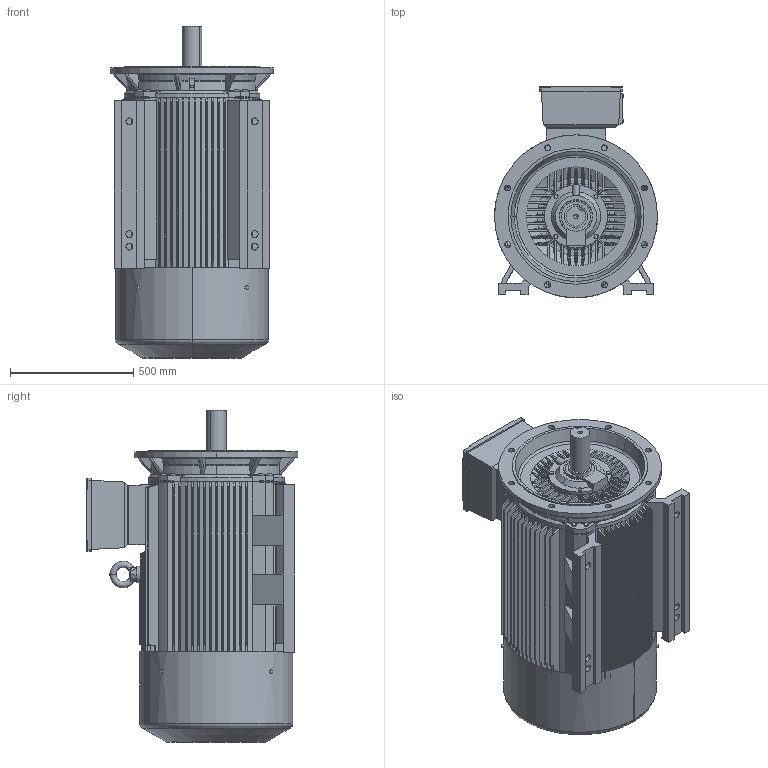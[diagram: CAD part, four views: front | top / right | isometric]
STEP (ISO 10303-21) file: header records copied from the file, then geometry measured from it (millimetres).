
FILE_DESCRIPTION (( 'STEP AP203' ), '1' );
FILE_NAME ('TE3-315ML-4,6,8 B35上.STEP', '2019-12-31T00:01:35', ( '微软用户' ), ( '微软中国' ), 'SwSTEP 2.0', 'SolidWorks 2012', '' );
FILE_SCHEMA (( 'CONFIG_CONTROL_DESIGN' ));
Length unit declared in the file: millimetre
Products named in the file (14): TE3-315ML-4,6,8 B35奻; YE3-315-4,6,8粣扥; Y2-315-4,6,8,10轴承外盖（轴伸）; hex head bolts-full thread grade c gb_GB_FASTENER_BOLT_HHBFTC M12X30-N; Y2-135 P24諉盄碟; hex head bolts-full thread grade c gb_GB_FASTENER_BOLT_HHBFTC M6X20-N; hex head bolts-full thread grade c gb_GB_FASTENER_BOLT_HHBFTC M10X20-N; 諉盄碟裔 WY315; 諉盄碟釱Y2-315; 蚐戚; eyebolts gb_GB_FASTENER_SCREWS_FRS M30-N; 8SLJ.306.00027（风罩YE3-315-4.6.8）; Y2-315-4,6,8凸缘端盖（带放油孔）; 8LY2.315.034.002(儂釱Y2-315ML) 
Assembly tree (30 placements, depth 3):
  TE3-315ML-4,6,8 B35奻
    8LY2.315.034.002(儂釱Y2-315ML) 
    Y2-315-4,6,8凸缘端盖（带放油孔）
    8SLJ.306.00027（风罩YE3-315-4.6.8）
    eyebolts gb_GB_FASTENER_SCREWS_FRS M30-N
    蚐戚
    Y2-135 P24諉盄碟
      諉盄碟釱Y2-315
      諉盄碟裔 WY315
      hex head bolts-full thread grade c gb_GB_FASTENER_BOLT_HHBFTC M10X20-N  x4
      hex head bolts-full thread grade c gb_GB_FASTENER_BOLT_HHBFTC M6X20-N  x4
    hex head bolts-full thread grade c gb_GB_FASTENER_BOLT_HHBFTC M12X30-N  x8
    hex head bolts-full thread grade c gb_GB_FASTENER_BOLT_HHBFTC M10X20-N  x4
    Y2-315-4,6,8,10轴承外盖（轴伸）
    YE3-315-4,6,8粣扥
Bounding box: 660 x 857.4 x 1345 mm (x, y, z)
Volume: 237699611.7 mm3; surface area: 9499160 mm2
Topology: 30 solids, 30 shells, 9283 faces, 24643 edges, 16377 vertices
Faces by surface type: plane 4940, cylinder 3735, cone 344, bspline 150, torus 112, sphere 2
Entity records: 326732 total; most frequent: CARTESIAN_POINT 96567, DIRECTION 47913, ORIENTED_EDGE 47708, EDGE_CURVE 23854, AXIS2_PLACEMENT_3D 16535, VERTEX_POINT 15898, VECTOR 14843, LINE 14843
